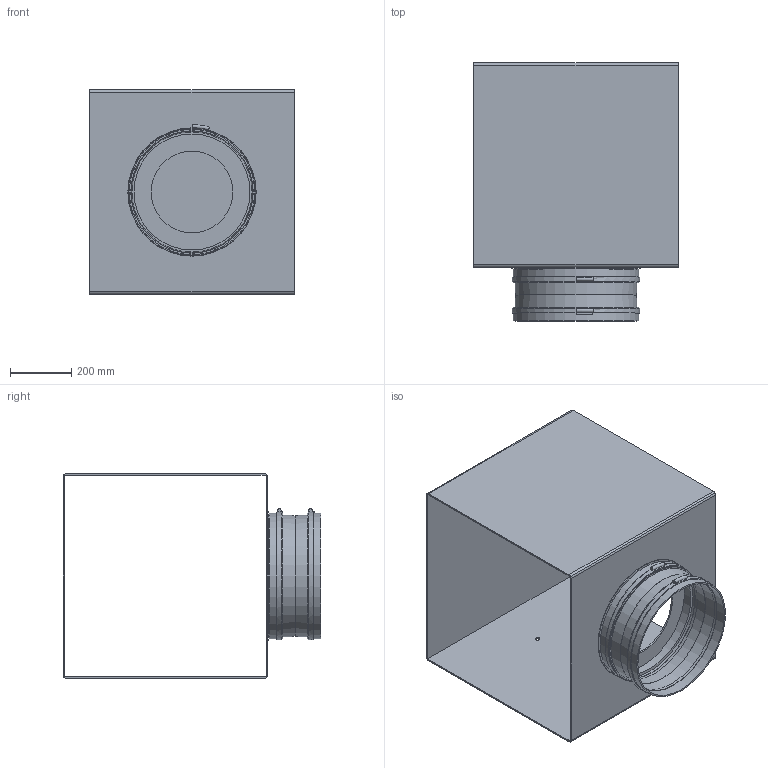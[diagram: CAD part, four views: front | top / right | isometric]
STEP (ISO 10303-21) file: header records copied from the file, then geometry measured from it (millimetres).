
FILE_DESCRIPTION(/* description */ (''),/* implementation_level */ '2;1');
FILE_NAME(/* name */ 'Z:\Output\GBD 400_4_4 T 120_DoubleRadial-05773-001.stp',/* time_stamp */ '2017-05-09T00:04:17+02:00',/* author */ ('jayeshpanchal'),/* organization */ (''),/* preprocessor_version */ 'ST-DEVELOPER v16.5',/* originating_system */ 'Autodesk Inventor 2017',/* authorisation */ '');
FILE_SCHEMA (('AUTOMOTIVE_DESIGN { 1 0 10303 214 3 1 1 }'));
Length unit declared in the file: millimetre
Products named in the file (1): GB-3
Bounding box: 670 x 845 x 670 mm (x, y, z)
Volume: 9768552.8 mm3; surface area: 4077880.6 mm2
Topology: 4 solids, 4 shells, 63 faces, 129 edges, 83 vertices
Faces by surface type: plane 31, cylinder 26, cone 4, torus 2
Full cylindrical faces by diameter (mm): 15 x2, 268 x1, 380 x1, 390 x1, 400 x1, 401 x4, 410 x1, 411 x4, 417 x2, 420 x1
Entity records: 1587 total; most frequent: DIRECTION 292, CARTESIAN_POINT 248, ORIENTED_EDGE 212, AXIS2_PLACEMENT_3D 124, EDGE_LOOP 108, EDGE_CURVE 104, VERTEX_POINT 80, FACE_OUTER_BOUND 63
